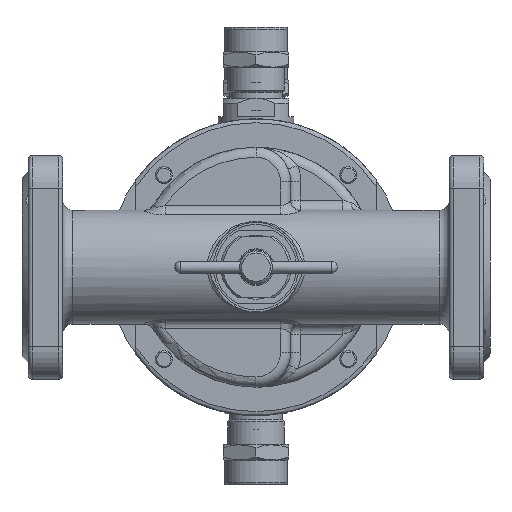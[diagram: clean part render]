
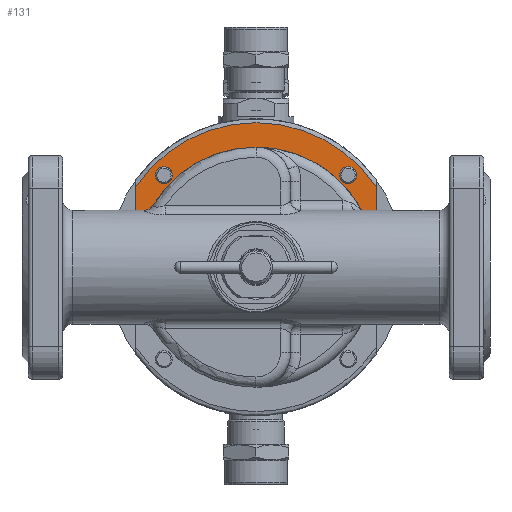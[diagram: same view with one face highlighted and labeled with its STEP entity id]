
A CAD part, front view. The second image highlights one B-rep face of the part: STEP entity #131.
In plain terms, the highlighted planar face has unit normal (0, -1, 0).
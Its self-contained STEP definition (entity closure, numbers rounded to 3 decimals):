
#131=ADVANCED_FACE('',(#4625,#4627,#4629),#4631,.F.);
#4625=FACE_BOUND('',#4626,.T.);
#4626=EDGE_LOOP('',(#23243));
#4627=FACE_BOUND('',#4628,.T.);
#4628=EDGE_LOOP('',(#23244));
#4629=FACE_OUTER_BOUND('',#4630,.T.);
#4630=EDGE_LOOP('',(#23245,#23246,#23247,#23248));
#4631=PLANE('',#4632);
#4632=AXIS2_PLACEMENT_3D('',#4633,#4634,#4635);
#4633=CARTESIAN_POINT('',(0.,39.5,0.));
#4634=DIRECTION('',(0.,1.,0.));
#4635=DIRECTION('',(-1.,0.,0.));
#23243=ORIENTED_EDGE('',*,*,#35678,.T.);
#23244=ORIENTED_EDGE('',*,*,#35720,.T.);
#23245=ORIENTED_EDGE('',*,*,#35721,.F.);
#23246=ORIENTED_EDGE('',*,*,#35722,.F.);
#23247=ORIENTED_EDGE('',*,*,#35723,.F.);
#23248=ORIENTED_EDGE('',*,*,#35724,.F.);
#35678=EDGE_CURVE('',#40981,#40981,#40983,.T.);
#35720=EDGE_CURVE('',#41057,#41057,#41058,.T.);
#35721=EDGE_CURVE('',#41059,#41060,#41061,.T.);
#35722=EDGE_CURVE('',#41062,#41059,#41063,.T.);
#35723=EDGE_CURVE('',#41064,#41062,#41065,.T.);
#35724=EDGE_CURVE('',#41060,#41064,#41066,.T.);
#40981=VERTEX_POINT('',#49733);
#40983=CIRCLE('',#49737,4.188);
#41057=VERTEX_POINT('',#49921);
#41058=CIRCLE('',#49922,4.188);
#41059=VERTEX_POINT('',#49926);
#41060=VERTEX_POINT('',#49927);
#41061=CIRCLE('',#49928,71.);
#41062=VERTEX_POINT('',#49932);
#41063=LINE('',#49933,#49934);
#41064=VERTEX_POINT('',#49936);
#41065=CIRCLE('',#49937,59.);
#41066=LINE('',#49941,#49942);
#49733=CARTESIAN_POINT('',(-49.443,39.5,45.255));
#49737=AXIS2_PLACEMENT_3D('',#49738,#49739,#49740);
#49738=CARTESIAN_POINT('',(-45.255,39.5,45.255));
#49739=DIRECTION('',(0.,1.,0.));
#49740=DIRECTION('',(-1.,0.,0.));
#49921=CARTESIAN_POINT('',(41.067,39.5,45.255));
#49922=AXIS2_PLACEMENT_3D('',#49923,#49924,#49925);
#49923=CARTESIAN_POINT('',(45.255,39.5,45.255));
#49924=DIRECTION('',(0.,1.,0.));
#49925=DIRECTION('',(-1.,0.,0.));
#49926=CARTESIAN_POINT('',(-59.,39.5,39.497));
#49927=CARTESIAN_POINT('',(59.,39.5,39.497));
#49928=AXIS2_PLACEMENT_3D('',#49929,#49930,#49931);
#49929=CARTESIAN_POINT('',(0.,39.5,0.));
#49930=DIRECTION('',(0.,1.,0.));
#49931=DIRECTION('',(-0.831,0.,0.556));
#49932=CARTESIAN_POINT('',(-59.,39.5,0.));
#49933=CARTESIAN_POINT('',(-59.,39.5,0.));
#49934=VECTOR('',#49935,1.);
#49935=DIRECTION('',(0.,0.,1.));
#49936=CARTESIAN_POINT('',(59.,39.5,0.));
#49937=AXIS2_PLACEMENT_3D('',#49938,#49939,#49940);
#49938=CARTESIAN_POINT('',(0.,39.5,0.));
#49939=DIRECTION('',(0.,-1.,0.));
#49940=DIRECTION('',(1.,0.,0.));
#49941=CARTESIAN_POINT('',(59.,39.5,39.497));
#49942=VECTOR('',#49943,1.);
#49943=DIRECTION('',(0.,0.,-1.));
